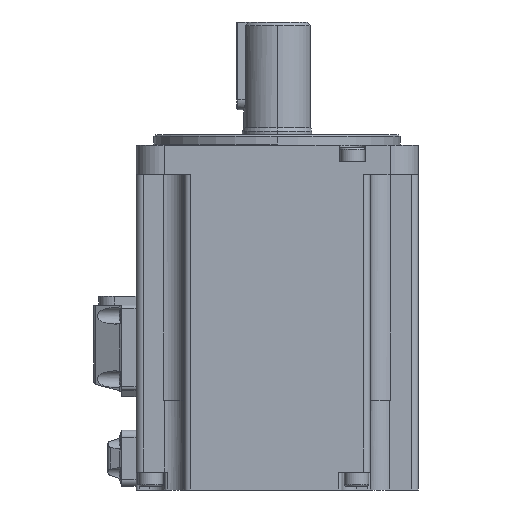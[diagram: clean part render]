
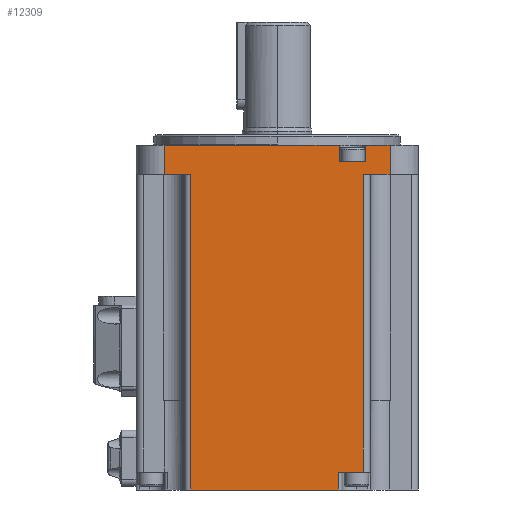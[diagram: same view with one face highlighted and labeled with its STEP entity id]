
A CAD part, left-side view. The second image highlights one B-rep face of the part: STEP entity #12309.
In plain terms, the highlighted planar face has unit normal (-1, 0, 0).
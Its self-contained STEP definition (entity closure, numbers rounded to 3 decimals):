
#1866=DIRECTION('',(0.,0.,1.));
#1867=VECTOR('',#1866,84.6);
#1868=CARTESIAN_POINT('',(-40.1,-24.5,-20.4));
#1869=LINE('',#1868,#1867);
#1870=DIRECTION('',(0.,-1.,0.));
#1871=VECTOR('',#1870,49.724);
#1872=CARTESIAN_POINT('',(-40.1,32.1,72.5));
#1873=LINE('',#1872,#1871);
#1874=DIRECTION('',(0.,-1.,0.));
#1875=VECTOR('',#1874,6.976);
#1876=CARTESIAN_POINT('',(-40.1,-25.124,72.5));
#1877=LINE('',#1876,#1875);
#1878=DIRECTION('',(0.,1.,0.));
#1879=VECTOR('',#1878,7.6);
#1880=CARTESIAN_POINT('',(-40.1,-32.1,64.2));
#1881=LINE('',#1880,#1879);
#1882=DIRECTION('',(0.,1.,0.));
#1883=VECTOR('',#1882,7.1);
#1884=CARTESIAN_POINT('',(-40.1,-24.5,-20.4));
#1885=LINE('',#1884,#1883);
#1886=DIRECTION('',(0.,0.,-1.));
#1887=VECTOR('',#1886,5.1);
#1888=CARTESIAN_POINT('',(-40.1,-17.4,-20.4));
#1889=LINE('',#1888,#1887);
#1890=DIRECTION('',(0.,1.,0.));
#1891=VECTOR('',#1890,41.9);
#1892=CARTESIAN_POINT('',(-40.1,-17.4,-25.5));
#1893=LINE('',#1892,#1891);
#1894=DIRECTION('',(0.,0.,-1.));
#1895=VECTOR('',#1894,89.7);
#1896=CARTESIAN_POINT('',(-40.1,24.5,64.2));
#1897=LINE('',#1896,#1895);
#1972=DIRECTION('',(0.,-1.,0.));
#1973=VECTOR('',#1972,7.6);
#1974=CARTESIAN_POINT('',(-40.1,32.1,64.2));
#1975=LINE('',#1974,#1973);
#1986=DIRECTION('',(0.,0.,-1.));
#1987=VECTOR('',#1986,8.3);
#1988=CARTESIAN_POINT('',(-40.1,32.1,72.5));
#1989=LINE('',#1988,#1987);
#2286=DIRECTION('',(0.,0.,1.));
#2287=VECTOR('',#2286,8.3);
#2288=CARTESIAN_POINT('',(-40.1,-32.1,64.2));
#2289=LINE('',#2288,#2287);
#4193=DIRECTION('',(0.,0.,-1.));
#4194=VECTOR('',#4193,4.7);
#4195=CARTESIAN_POINT('',(-40.1,-25.124,72.5));
#4196=LINE('',#4195,#4194);
#4215=DIRECTION('',(0.,1.,0.));
#4216=VECTOR('',#4215,7.5);
#4217=CARTESIAN_POINT('',(-40.1,-25.124,67.8));
#4218=LINE('',#4217,#4216);
#4474=DIRECTION('',(0.,0.,1.));
#4475=VECTOR('',#4474,4.7);
#4476=CARTESIAN_POINT('',(-40.1,-17.624,67.8));
#4477=LINE('',#4476,#4475);
#8527=CARTESIAN_POINT('',(-40.1,24.5,-25.5));
#8529=VERTEX_POINT('',#8527);
#8530=CARTESIAN_POINT('',(-40.1,-17.4,-25.5));
#8531=VERTEX_POINT('',#8530);
#8547=CARTESIAN_POINT('',(-40.1,-17.4,-20.4));
#8549=VERTEX_POINT('',#8547);
#8550=CARTESIAN_POINT('',(-40.1,-24.5,-20.4));
#8552=VERTEX_POINT('',#8550);
#8929=CARTESIAN_POINT('',(-40.1,-32.1,72.5));
#8931=VERTEX_POINT('',#8929);
#8936=CARTESIAN_POINT('',(-40.1,32.1,72.5));
#8938=VERTEX_POINT('',#8936);
#9071=CARTESIAN_POINT('',(-40.1,-24.5,64.2));
#9073=VERTEX_POINT('',#9071);
#9074=CARTESIAN_POINT('',(-40.1,-32.1,64.2));
#9075=VERTEX_POINT('',#9074);
#9080=CARTESIAN_POINT('',(-40.1,-17.624,72.5));
#9081=VERTEX_POINT('',#9080);
#9082=CARTESIAN_POINT('',(-40.1,-25.124,72.5));
#9083=CARTESIAN_POINT('',(-40.1,-25.124,67.8));
#9084=VERTEX_POINT('',#9082);
#9085=VERTEX_POINT('',#9083);
#9086=CARTESIAN_POINT('',(-40.1,32.1,64.2));
#9087=CARTESIAN_POINT('',(-40.1,24.5,64.2));
#9088=VERTEX_POINT('',#9086);
#9089=VERTEX_POINT('',#9087);
#9092=CARTESIAN_POINT('',(-40.1,-17.624,67.8));
#9093=VERTEX_POINT('',#9092);
#12275=CARTESIAN_POINT('',(-40.1,0.,-16.5));
#12276=DIRECTION('',(1.,0.,0.));
#12277=DIRECTION('',(0.,1.,0.));
#12278=AXIS2_PLACEMENT_3D('',#12275,#12276,#12277);
#12279=PLANE('',#12278);
#12281=ORIENTED_EDGE('',*,*,#12280,.F.);
#12283=ORIENTED_EDGE('',*,*,#12282,.F.);
#12285=ORIENTED_EDGE('',*,*,#12284,.F.);
#12287=ORIENTED_EDGE('',*,*,#12286,.T.);
#12289=ORIENTED_EDGE('',*,*,#12288,.F.);
#12291=ORIENTED_EDGE('',*,*,#12290,.F.);
#12293=ORIENTED_EDGE('',*,*,#12292,.F.);
#12295=ORIENTED_EDGE('',*,*,#12294,.T.);
#12297=ORIENTED_EDGE('',*,*,#12296,.F.);
#12299=ORIENTED_EDGE('',*,*,#12298,.T.);
#12300=ORIENTED_EDGE('',*,*,#12265,.F.);
#12302=ORIENTED_EDGE('',*,*,#12301,.T.);
#12304=ORIENTED_EDGE('',*,*,#12303,.T.);
#12306=ORIENTED_EDGE('',*,*,#12305,.T.);
#12307=EDGE_LOOP('',(#12281,#12283,#12285,#12287,#12289,#12291,#12293,#12295,
#12297,#12299,#12300,#12302,#12304,#12306));
#12308=FACE_OUTER_BOUND('',#12307,.F.);
#12309=ADVANCED_FACE('',(#12308),#12279,.F.);
#12265=EDGE_CURVE('',#8552,#9073,#1869,.T.);
#12280=EDGE_CURVE('',#9089,#8529,#1897,.T.);
#12282=EDGE_CURVE('',#9088,#9089,#1975,.T.);
#12284=EDGE_CURVE('',#8938,#9088,#1989,.T.);
#12286=EDGE_CURVE('',#8938,#9081,#1873,.T.);
#12288=EDGE_CURVE('',#9093,#9081,#4477,.T.);
#12290=EDGE_CURVE('',#9085,#9093,#4218,.T.);
#12292=EDGE_CURVE('',#9084,#9085,#4196,.T.);
#12294=EDGE_CURVE('',#9084,#8931,#1877,.T.);
#12296=EDGE_CURVE('',#9075,#8931,#2289,.T.);
#12298=EDGE_CURVE('',#9075,#9073,#1881,.T.);
#12301=EDGE_CURVE('',#8552,#8549,#1885,.T.);
#12303=EDGE_CURVE('',#8549,#8531,#1889,.T.);
#12305=EDGE_CURVE('',#8531,#8529,#1893,.T.);
